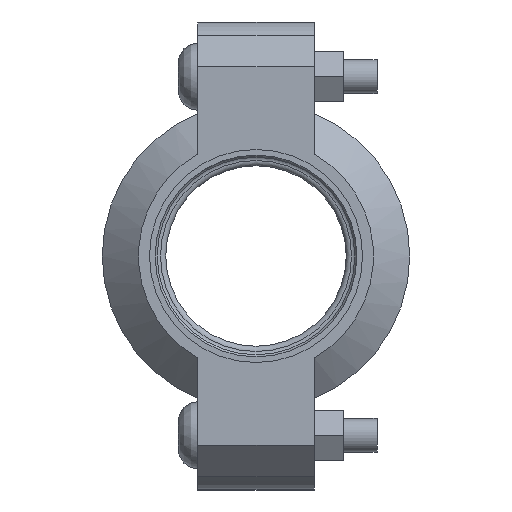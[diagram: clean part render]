
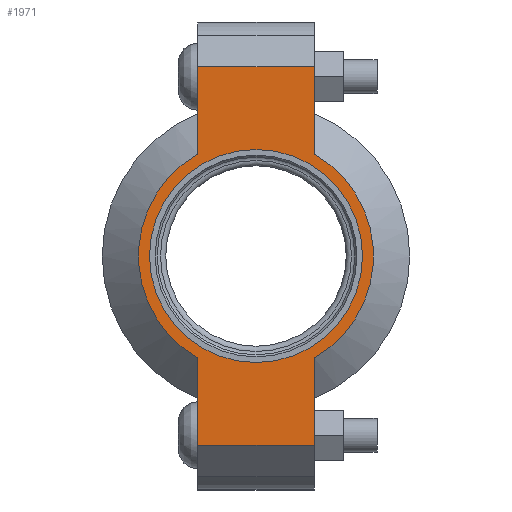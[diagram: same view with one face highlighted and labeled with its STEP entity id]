
A CAD part, left-side view. The second image highlights one B-rep face of the part: STEP entity #1971.
In plain terms, the highlighted planar face has unit normal (-1, 0, 0) as drawn and (0, 0, 1) by its records, which use the part's own axes.
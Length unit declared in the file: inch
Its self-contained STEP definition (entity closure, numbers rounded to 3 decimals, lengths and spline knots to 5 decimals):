
#160=LINE('',#3493,#257);
#168=LINE('',#3529,#265);
#175=LINE('',#3550,#272);
#184=LINE('',#3582,#281);
#185=LINE('',#3586,#282);
#186=LINE('',#3588,#283);
#257=VECTOR('',#2845,0.3937);
#265=VECTOR('',#2861,0.3937);
#272=VECTOR('',#2880,0.3937);
#281=VECTOR('',#2905,0.3937);
#282=VECTOR('',#2910,0.3937);
#283=VECTOR('',#2911,0.3937);
#339=FACE_BOUND('',#589,.T.);
#383=PLANE('',#2310);
#471=FACE_OUTER_BOUND('',#588,.T.);
#588=EDGE_LOOP('',(#1692,#1693,#1694,#1695,#1696,#1697,#1698,#1699));
#589=EDGE_LOOP('',(#1700));
#761=CIRCLE('',#2311,1.31);
#762=CIRCLE('',#2312,1.31);
#763=CIRCLE('',#2313,1.1875);
#925=VERTEX_POINT('',#3490);
#926=VERTEX_POINT('',#3492);
#937=VERTEX_POINT('',#3524);
#938=VERTEX_POINT('',#3528);
#945=VERTEX_POINT('',#3547);
#946=VERTEX_POINT('',#3549);
#956=VERTEX_POINT('',#3585);
#957=VERTEX_POINT('',#3587);
#958=VERTEX_POINT('',#3590);
#1170=EDGE_CURVE('',#926,#925,#160,.T.);
#1184=EDGE_CURVE('',#938,#937,#168,.T.);
#1194=EDGE_CURVE('',#946,#945,#175,.T.);
#1209=EDGE_CURVE('',#938,#925,#184,.T.);
#1210=EDGE_CURVE('',#937,#946,#761,.T.);
#1211=EDGE_CURVE('',#956,#945,#185,.T.);
#1212=EDGE_CURVE('',#956,#957,#186,.T.);
#1213=EDGE_CURVE('',#957,#926,#762,.T.);
#1214=EDGE_CURVE('',#958,#958,#763,.T.);
#1692=ORIENTED_EDGE('',*,*,#1209,.F.);
#1693=ORIENTED_EDGE('',*,*,#1184,.T.);
#1694=ORIENTED_EDGE('',*,*,#1210,.T.);
#1695=ORIENTED_EDGE('',*,*,#1194,.T.);
#1696=ORIENTED_EDGE('',*,*,#1211,.F.);
#1697=ORIENTED_EDGE('',*,*,#1212,.T.);
#1698=ORIENTED_EDGE('',*,*,#1213,.T.);
#1699=ORIENTED_EDGE('',*,*,#1170,.T.);
#1700=ORIENTED_EDGE('',*,*,#1214,.T.);
#1971=ADVANCED_FACE('',(#471,#339),#383,.T.);
#2310=AXIS2_PLACEMENT_3D('',#3583,#2906,#2907);
#2311=AXIS2_PLACEMENT_3D('',#3584,#2908,#2909);
#2312=AXIS2_PLACEMENT_3D('',#3589,#2912,#2913);
#2313=AXIS2_PLACEMENT_3D('',#3591,#2914,#2915);
#2845=DIRECTION('',(1.,0.,0.));
#2861=DIRECTION('',(-1.,0.,0.));
#2880=DIRECTION('',(-1.,0.,0.));
#2905=DIRECTION('',(0.,-1.,0.));
#2906=DIRECTION('center_axis',(0.,0.,1.));
#2907=DIRECTION('ref_axis',(-1.,0.,0.));
#2908=DIRECTION('center_axis',(0.,0.,1.));
#2909=DIRECTION('ref_axis',(1.,0.,0.));
#2910=DIRECTION('',(0.,1.,0.));
#2911=DIRECTION('',(1.,0.,0.));
#2912=DIRECTION('center_axis',(0.,0.,1.));
#2913=DIRECTION('ref_axis',(1.,0.,0.));
#2914=DIRECTION('center_axis',(0.,0.,-1.));
#2915=DIRECTION('ref_axis',(1.,0.,0.));
#3490=CARTESIAN_POINT('',(2.11,-0.65,0.94));
#3492=CARTESIAN_POINT('',(1.13737,-0.65,0.94));
#3493=CARTESIAN_POINT('',(2.61,-0.65,0.94));
#3524=CARTESIAN_POINT('',(1.13737,0.65,0.94));
#3528=CARTESIAN_POINT('',(2.11,0.65,0.94));
#3529=CARTESIAN_POINT('',(-2.61,0.65,0.94));
#3547=CARTESIAN_POINT('',(-2.11,0.65,0.94));
#3549=CARTESIAN_POINT('',(-1.13737,0.65,0.94));
#3550=CARTESIAN_POINT('',(-2.61,0.65,0.94));
#3582=CARTESIAN_POINT('',(2.11,-0.325,0.94));
#3583=CARTESIAN_POINT('Origin',(0.,0.,
0.94));
#3584=CARTESIAN_POINT('Origin',(0.,0.,0.94));
#3585=CARTESIAN_POINT('',(-2.11,-0.65,0.94));
#3586=CARTESIAN_POINT('',(-2.11,0.325,0.94));
#3587=CARTESIAN_POINT('',(-1.13737,-0.65,0.94));
#3588=CARTESIAN_POINT('',(2.61,-0.65,0.94));
#3589=CARTESIAN_POINT('Origin',(0.,0.,0.94));
#3590=CARTESIAN_POINT('',(-1.1875,0.,0.94));
#3591=CARTESIAN_POINT('Origin',(0.,0.,0.94));
